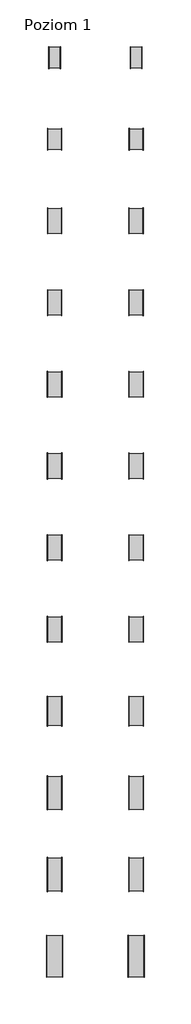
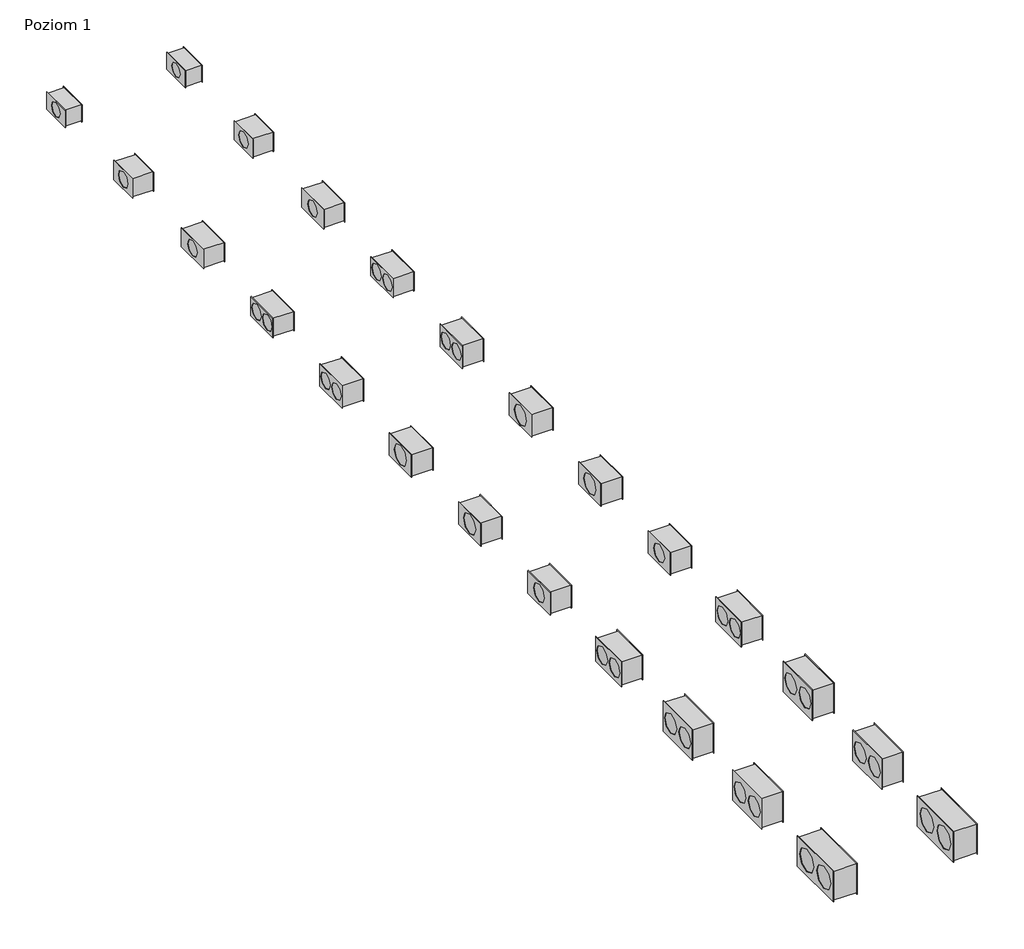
# One storey: 24 unitary equipment elements.
"""IFC4 building model written with IfcOpenShell, lengths in millimetres."""

from ifc_helpers import new_model, si_unit, origin, place, context, project, spatial, transform, mapped, element, save
from components import unitary_equipment_318f0239, unitary_equipment_6f25ec48, unitary_equipment_16e9e0c7, unitary_equipment_962ad727, unitary_equipment_61ebb79e, unitary_equipment_2e59ecbf, unitary_equipment_46f6b69a, unitary_equipment_3b6452c3, unitary_equipment_636d3d62, unitary_equipment_e4234641

model = new_model("IFC4")

# Units and contexts
model_context = context("Model", 3, world=origin())
ifc_project = project(units=[si_unit("LENGTHUNIT", "METRE", prefix="MILLI")], contexts=[model_context])

# Site, building, storey
site = spatial("IfcSite", under=ifc_project)
building = spatial("IfcBuilding", under=site)
storey = spatial("IfcBuildingStorey", under=building, Name="Poziom 1", Elevation=0.0)

# Unitary equipment
placement = place(None, origin())
unitary_equipment_shape = unitary_equipment_318f0239(model_context)
element("IfcUnitaryEquipment", 1, ObjectType="VE-Wentylator-ParaForma-Harmann-JETTEC_REC_EC-Nawiewny : 050/25/2100EC", at=placement, inside=storey, context=model_context, shape_type="MappedRepresentation", body=[
    mapped(unitary_equipment_shape, transform((6582.5, 1000.0, 0.0), x_axis=(1.0, 0.0, 0.0), y_axis=(0.0, 1.0, 0.0), z_axis=(0.0, 0.0, 1.0))),
])
unitary_equipment_2_shape = unitary_equipment_6f25ec48(model_context)
element("IfcUnitaryEquipment", 2, ObjectType="VE-Wentylator-ParaForma-Harmann-JETTEC_REC_EC-Nawiewny : 050/30/2300EC", at=placement, inside=storey, context=model_context, shape_type="MappedRepresentation", body=[
    mapped(unitary_equipment_2_shape, transform((6582.5, -1000.0, 0.0), x_axis=(1.0, 0.0, 0.0), y_axis=(0.0, 1.0, 0.0), z_axis=(0.0, 0.0, 1.0))),
])
unitary_equipment_3_shape = unitary_equipment_16e9e0c7(model_context)
element("IfcUnitaryEquipment", 3, ObjectType="VE-Wentylator-ParaForma-Harmann-JETTEC_REC_EC-Nawiewny : 060/30/2300EC", at=placement, inside=storey, context=model_context, shape_type="MappedRepresentation", body=[
    mapped(unitary_equipment_3_shape, transform((6582.5, -3000.0, 0.0), x_axis=(1.0, 0.0, 0.0), y_axis=(0.0, 1.0, 0.0), z_axis=(0.0, 0.0, 1.0))),
])
unitary_equipment_4_shape = unitary_equipment_962ad727(model_context)
element("IfcUnitaryEquipment", 4, ObjectType="VE-Wentylator-ParaForma-Harmann-JETTEC_REC_EC-Nawiewny : 060/30/4500EC", at=placement, inside=storey, context=model_context, shape_type="MappedRepresentation", body=[
    mapped(unitary_equipment_4_shape, transform((6582.5, -5000.0, 0.0), x_axis=(1.0, 0.0, 0.0), y_axis=(0.0, 1.0, 0.0), z_axis=(0.0, 0.0, 1.0))),
])
unitary_equipment_5_shape = unitary_equipment_61ebb79e(model_context)
element("IfcUnitaryEquipment", 5, ObjectType="VE-Wentylator-ParaForma-Harmann-JETTEC_REC_EC-Nawiewny : 060/35/2700EC", at=placement, inside=storey, context=model_context, shape_type="MappedRepresentation", body=[
    mapped(unitary_equipment_5_shape, transform((6582.5, -7000.0, 0.0), x_axis=(1.0, 0.0, 0.0), y_axis=(0.0, 1.0, 0.0), z_axis=(0.0, 0.0, 1.0))),
])
unitary_equipment_6_shape = unitary_equipment_2e59ecbf(model_context)
element("IfcUnitaryEquipment", 6, ObjectType="VE-Wentylator-ParaForma-Harmann-JETTEC_REC_EC-Nawiewny : 060/35/4600EC", at=placement, inside=storey, context=model_context, shape_type="MappedRepresentation", body=[
    mapped(unitary_equipment_6_shape, transform((6582.5, -13000.0, 0.0), x_axis=(1.0, 0.0, 0.0), y_axis=(0.0, 1.0, 0.0), z_axis=(0.0, 0.0, 1.0))),
])
unitary_equipment_7_shape = unitary_equipment_46f6b69a(model_context)
element("IfcUnitaryEquipment", 7, ObjectType="VE-Wentylator-ParaForma-Harmann-JETTEC_REC_EC-Nawiewny : 060/35/4400EC", at=placement, inside=storey, context=model_context, shape_type="MappedRepresentation", body=[
    mapped(unitary_equipment_7_shape, transform((6582.5, -11000.0, 0.0), x_axis=(1.0, 0.0, 0.0), y_axis=(0.0, 1.0, 0.0), z_axis=(0.0, 0.0, 1.0))),
])
element("IfcUnitaryEquipment", 8, ObjectType="VE-Wentylator-ParaForma-Harmann-JETTEC_REC_EC-Nawiewny : 060/35/3000EC", at=placement, inside=storey, context=model_context, shape_type="MappedRepresentation", body=[
    mapped(unitary_equipment_7_shape, transform((6582.5, -9000.0, 0.0), x_axis=(1.0, 0.0, 0.0), y_axis=(0.0, 1.0, 0.0), z_axis=(0.0, 0.0, 1.0))),
])
unitary_equipment_8_shape = unitary_equipment_3b6452c3(model_context)
element("IfcUnitaryEquipment", 9, ObjectType="VE-Wentylator-ParaForma-Harmann-JETTEC_REC_EC-Nawiewny : 070/40/5500EC", at=placement, inside=storey, context=model_context, shape_type="MappedRepresentation", body=[
    mapped(unitary_equipment_8_shape, transform((6582.5, -15000.0, 0.0), x_axis=(1.0, 0.0, 0.0), y_axis=(0.0, 1.0, 0.0), z_axis=(0.0, 0.0, 1.0))),
])
unitary_equipment_9_shape = unitary_equipment_636d3d62(model_context)
element("IfcUnitaryEquipment", 10, ObjectType="VE-Wentylator-ParaForma-Harmann-JETTEC_REC_EC-Nawiewny : 080/50/6100EC", at=placement, inside=storey, context=model_context, shape_type="MappedRepresentation", body=[
    mapped(unitary_equipment_9_shape, transform((6582.5, -17000.0, 0.0), x_axis=(1.0, 0.0, 0.0), y_axis=(0.0, 1.0, 0.0), z_axis=(0.0, 0.0, 1.0))),
])
element("IfcUnitaryEquipment", 11, ObjectType="VE-Wentylator-ParaForma-Harmann-JETTEC_REC_EC-Nawiewny : 080/50/8900EC", at=placement, inside=storey, context=model_context, shape_type="MappedRepresentation", body=[
    mapped(unitary_equipment_9_shape, transform((6582.5, -19000.0, 0.0), x_axis=(1.0, 0.0, 0.0), y_axis=(0.0, 1.0, 0.0), z_axis=(0.0, 0.0, 1.0))),
])
unitary_equipment_10_shape = unitary_equipment_e4234641(model_context)
element("IfcUnitaryEquipment", 12, ObjectType="VE-Wentylator-ParaForma-Harmann-JETTEC_REC_EC-Nawiewny : 100/50/10400EC", at=placement, inside=storey, context=model_context, shape_type="MappedRepresentation", body=[
    mapped(unitary_equipment_10_shape, transform((6582.5, -21000.0, 0.0), x_axis=(1.0, 0.0, 0.0), y_axis=(0.0, 1.0, 0.0), z_axis=(0.0, 0.0, 1.0))),
])
element("IfcUnitaryEquipment", 13, ObjectType="VE-Wentylator-ParaForma-Harmann-JETTEC_REC_EC-Wywiewny : 050/25/2100EC", at=placement, inside=storey, context=model_context, shape_type="MappedRepresentation", body=[
    mapped(unitary_equipment_shape, transform((4582.5, 1000.0, 0.0), x_axis=(1.0, 0.0, 0.0), y_axis=(0.0, 1.0, 0.0), z_axis=(0.0, 0.0, 1.0))),
])
element("IfcUnitaryEquipment", 14, ObjectType="VE-Wentylator-ParaForma-Harmann-JETTEC_REC_EC-Wywiewny : 050/30/2300EC", at=placement, inside=storey, context=model_context, shape_type="MappedRepresentation", body=[
    mapped(unitary_equipment_2_shape, transform((4582.5, -1000.0, 0.0), x_axis=(1.0, 0.0, 0.0), y_axis=(0.0, 1.0, 0.0), z_axis=(0.0, 0.0, 1.0))),
])
element("IfcUnitaryEquipment", 15, ObjectType="VE-Wentylator-ParaForma-Harmann-JETTEC_REC_EC-Wywiewny : 060/30/2300EC", at=placement, inside=storey, context=model_context, shape_type="MappedRepresentation", body=[
    mapped(unitary_equipment_3_shape, transform((4582.5, -3000.0, 0.0), x_axis=(1.0, 0.0, 0.0), y_axis=(0.0, 1.0, 0.0), z_axis=(0.0, 0.0, 1.0))),
])
element("IfcUnitaryEquipment", 16, ObjectType="VE-Wentylator-ParaForma-Harmann-JETTEC_REC_EC-Wywiewny : 060/30/4500EC", at=placement, inside=storey, context=model_context, shape_type="MappedRepresentation", body=[
    mapped(unitary_equipment_4_shape, transform((4582.5, -5000.0, 0.0), x_axis=(1.0, 0.0, 0.0), y_axis=(0.0, 1.0, 0.0), z_axis=(0.0, 0.0, 1.0))),
])
element("IfcUnitaryEquipment", 17, ObjectType="VE-Wentylator-ParaForma-Harmann-JETTEC_REC_EC-Wywiewny : 060/35/2700EC", at=placement, inside=storey, context=model_context, shape_type="MappedRepresentation", body=[
    mapped(unitary_equipment_5_shape, transform((4582.5, -7000.0, 0.0), x_axis=(1.0, 0.0, 0.0), y_axis=(0.0, 1.0, 0.0), z_axis=(0.0, 0.0, 1.0))),
])
element("IfcUnitaryEquipment", 18, ObjectType="VE-Wentylator-ParaForma-Harmann-JETTEC_REC_EC-Wywiewny : 060/35/4600EC", at=placement, inside=storey, context=model_context, shape_type="MappedRepresentation", body=[
    mapped(unitary_equipment_6_shape, transform((4582.5, -13000.0, 0.0), x_axis=(1.0, 0.0, 0.0), y_axis=(0.0, 1.0, 0.0), z_axis=(0.0, 0.0, 1.0))),
])
element("IfcUnitaryEquipment", 19, ObjectType="VE-Wentylator-ParaForma-Harmann-JETTEC_REC_EC-Wywiewny : 060/35/4400EC", at=placement, inside=storey, context=model_context, shape_type="MappedRepresentation", body=[
    mapped(unitary_equipment_7_shape, transform((4582.5, -11000.0, 0.0), x_axis=(1.0, 0.0, 0.0), y_axis=(0.0, 1.0, 0.0), z_axis=(0.0, 0.0, 1.0))),
])
element("IfcUnitaryEquipment", 20, ObjectType="VE-Wentylator-ParaForma-Harmann-JETTEC_REC_EC-Wywiewny : 060/35/3000EC", at=placement, inside=storey, context=model_context, shape_type="MappedRepresentation", body=[
    mapped(unitary_equipment_7_shape, transform((4582.5, -9000.0, 0.0), x_axis=(1.0, 0.0, 0.0), y_axis=(0.0, 1.0, 0.0), z_axis=(0.0, 0.0, 1.0))),
])
element("IfcUnitaryEquipment", 21, ObjectType="VE-Wentylator-ParaForma-Harmann-JETTEC_REC_EC-Wywiewny : 070/40/5500EC", at=placement, inside=storey, context=model_context, shape_type="MappedRepresentation", body=[
    mapped(unitary_equipment_8_shape, transform((4582.5, -15000.0, 0.0), x_axis=(1.0, 0.0, 0.0), y_axis=(0.0, 1.0, 0.0), z_axis=(0.0, 0.0, 1.0))),
])
element("IfcUnitaryEquipment", 22, ObjectType="VE-Wentylator-ParaForma-Harmann-JETTEC_REC_EC-Wywiewny : 080/50/6100EC", at=placement, inside=storey, context=model_context, shape_type="MappedRepresentation", body=[
    mapped(unitary_equipment_9_shape, transform((4582.5, -17000.0, 0.0), x_axis=(1.0, 0.0, 0.0), y_axis=(0.0, 1.0, 0.0), z_axis=(0.0, 0.0, 1.0))),
])
element("IfcUnitaryEquipment", 23, ObjectType="VE-Wentylator-ParaForma-Harmann-JETTEC_REC_EC-Wywiewny : 080/50/8900EC", at=placement, inside=storey, context=model_context, shape_type="MappedRepresentation", body=[
    mapped(unitary_equipment_9_shape, transform((4582.5, -19000.0, 0.0), x_axis=(1.0, 0.0, 0.0), y_axis=(0.0, 1.0, 0.0), z_axis=(0.0, 0.0, 1.0))),
])
element("IfcUnitaryEquipment", 24, ObjectType="VE-Wentylator-ParaForma-Harmann-JETTEC_REC_EC-Wywiewny : 100/50/10400EC", at=placement, inside=storey, context=model_context, shape_type="MappedRepresentation", body=[
    mapped(unitary_equipment_10_shape, transform((4582.5, -21000.0, 0.0), x_axis=(1.0, 0.0, 0.0), y_axis=(0.0, 1.0, 0.0), z_axis=(0.0, 0.0, 1.0))),
])

save(model, "model.ifc")
